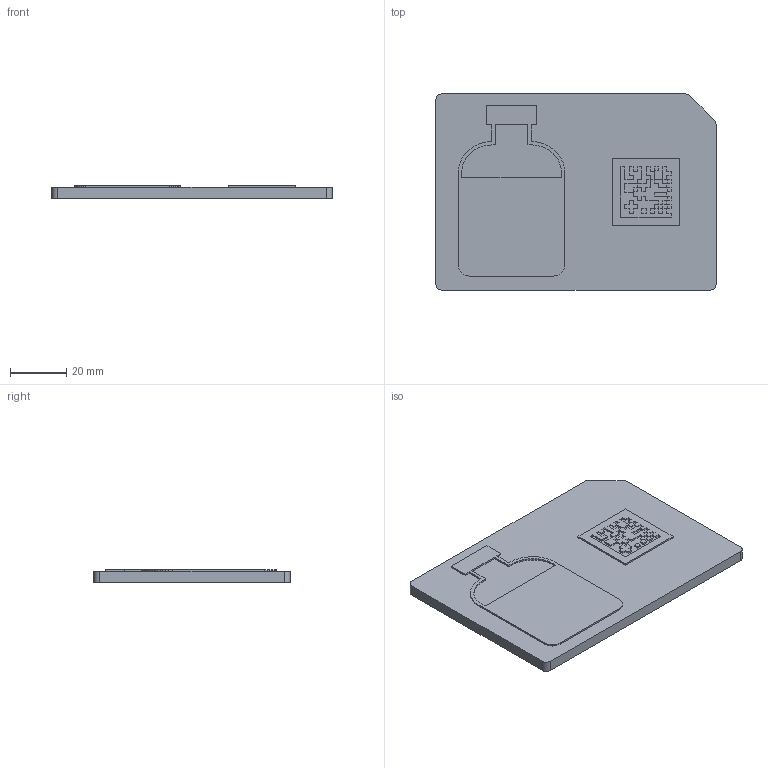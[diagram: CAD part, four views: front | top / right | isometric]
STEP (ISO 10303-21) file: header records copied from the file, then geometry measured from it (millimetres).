
FILE_DESCRIPTION(('Open CASCADE Model'),'2;1');
FILE_NAME('Open CASCADE Shape Model','2026-10-14T18:09:59',('Author'),( 'Open CASCADE'),'Open CASCADE STEP processor 7.9','Open CASCADE 7.9' ,'Unknown');
FILE_SCHEMA(('AUTOMOTIVE_DESIGN { 1 0 10303 214 1 1 1 1 }'));
Length unit declared in the file: millimetre
Products named in the file (3): SN-4813; SN-4813_base_dark; SN-4813_features_red
Assembly tree (2 placements, depth 2):
  SN-4813
    SN-4813_base_dark
    SN-4813_features_red
Bounding box: 100 x 70 x 4.6 mm (x, y, z)
Volume: 28936.1 mm3; surface area: 20462.5 mm2
Topology: 5 solids, 5 shells, 505 faces, 1428 edges, 952 vertices
Faces by surface type: plane 500, cylinder 5
Entity records: 34253 total; most frequent: CARTESIAN_POINT 6222, DIRECTION 4842, LINE 3798, VECTOR 3798, ORIENTED_EDGE 2856, PCURVE 2856, DEFINITIONAL_REPRESENTATION 2856, EDGE_CURVE 1428
